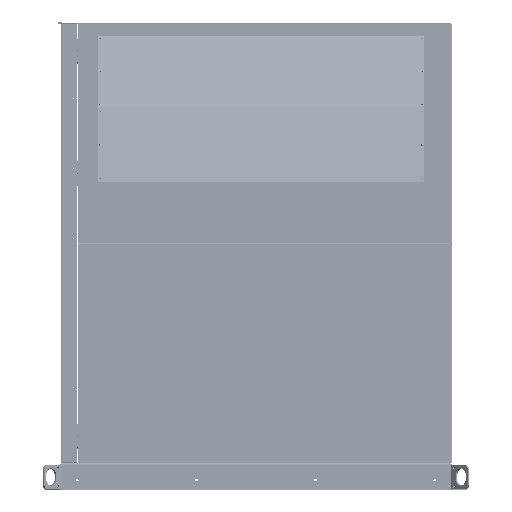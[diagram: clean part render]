
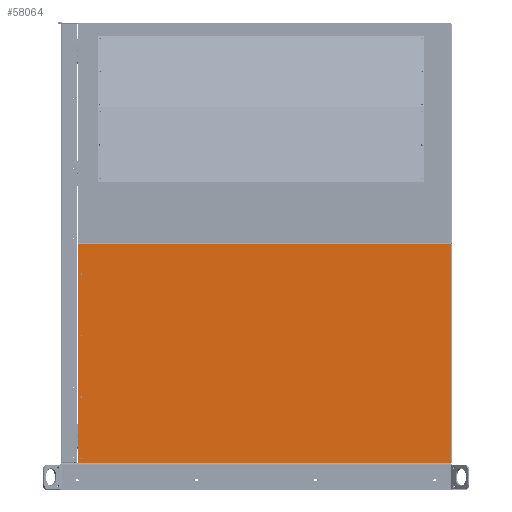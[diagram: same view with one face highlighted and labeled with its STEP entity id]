
A CAD part, top view. The second image highlights one B-rep face of the part: STEP entity #58064.
In plain terms, the highlighted planar face has unit normal (0, 0, 1) as drawn and (0, 1, 0) by its records, which use the part's own axes.
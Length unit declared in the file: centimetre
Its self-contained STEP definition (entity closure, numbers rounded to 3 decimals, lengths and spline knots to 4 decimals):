
#3298=VECTOR('',#69350,1.);
#3316=VECTOR('',#69382,1.);
#3330=VECTOR('',#69417,1.);
#3352=VECTOR('',#69469,1.);
#7532=LINE('',#85580,#3298);
#7550=LINE('',#85624,#3316);
#7564=LINE('',#85665,#3330);
#7586=LINE('',#85727,#3352);
#11630=PLANE('',#61832);
#13517=VERTEX_POINT('',#85394);
#13519=VERTEX_POINT('',#85399);
#13521=VERTEX_POINT('',#85404);
#13523=VERTEX_POINT('',#85409);
#13563=VERTEX_POINT('',#85509);
#13567=VERTEX_POINT('',#85517);
#13589=VERTEX_POINT('',#85585);
#13593=VERTEX_POINT('',#85593);
#13619=VERTEX_POINT('',#85666);
#13620=VERTEX_POINT('',#85667);
#13639=VERTEX_POINT('',#85728);
#13640=VERTEX_POINT('',#85729);
#18942=CIRCLE('',#61690,0.25);
#18944=CIRCLE('',#61693,0.25);
#18946=CIRCLE('',#61696,0.25);
#18948=CIRCLE('',#61699,0.25);
#22128=EDGE_CURVE('',#13517,#13517,#18942,.T.);
#22130=EDGE_CURVE('',#13519,#13519,#18944,.T.);
#22132=EDGE_CURVE('',#13521,#13521,#18946,.T.);
#22134=EDGE_CURVE('',#13523,#13523,#18948,.T.);
#22213=EDGE_CURVE('',#13567,#13563,#7532,.T.);
#22235=EDGE_CURVE('',#13593,#13589,#7550,.T.);
#22255=EDGE_CURVE('',#13619,#13620,#7564,.T.);
#22269=EDGE_CURVE('',#13563,#13619,#7564,.T.);
#22287=EDGE_CURVE('',#13639,#13640,#7586,.T.);
#22301=EDGE_CURVE('',#13589,#13639,#7586,.T.);
#22302=EDGE_CURVE('',#13640,#13567,#7586,.T.);
#22304=EDGE_CURVE('',#13620,#13593,#7564,.T.);
#31217=ORIENTED_EDGE('',*,*,#22128,.T.);
#31218=ORIENTED_EDGE('',*,*,#22130,.T.);
#31219=ORIENTED_EDGE('',*,*,#22132,.T.);
#31220=ORIENTED_EDGE('',*,*,#22134,.T.);
#31221=ORIENTED_EDGE('',*,*,#22301,.F.);
#31222=ORIENTED_EDGE('',*,*,#22235,.F.);
#31223=ORIENTED_EDGE('',*,*,#22304,.F.);
#31224=ORIENTED_EDGE('',*,*,#22255,.F.);
#31225=ORIENTED_EDGE('',*,*,#22269,.F.);
#31226=ORIENTED_EDGE('',*,*,#22213,.F.);
#31227=ORIENTED_EDGE('',*,*,#22302,.F.);
#31228=ORIENTED_EDGE('',*,*,#22287,.F.);
#46913=EDGE_LOOP('',(#31217));
#46914=EDGE_LOOP('',(#31218));
#46915=EDGE_LOOP('',(#31219));
#46916=EDGE_LOOP('',(#31220));
#46917=EDGE_LOOP('',(#31221,#31222,#31223,#31224,#31225,#31226,#31227,#31228));
#52633=FACE_BOUND('',#46913,.T.);
#52634=FACE_BOUND('',#46914,.T.);
#52635=FACE_BOUND('',#46915,.T.);
#52636=FACE_BOUND('',#46916,.T.);
#52637=FACE_BOUND('',#46917,.T.);
#58064=ADVANCED_FACE('',(#52633,#52634,#52635,#52636,#52637),#11630,.T.);
#61690=AXIS2_PLACEMENT_3D('',#85393,#69155,#69156);
#61693=AXIS2_PLACEMENT_3D('',#85398,#69161,#69162);
#61696=AXIS2_PLACEMENT_3D('',#85403,#69167,#69168);
#61699=AXIS2_PLACEMENT_3D('',#85408,#69173,#69174);
#61832=AXIS2_PLACEMENT_3D('',#85753,#69493,$);
#69155=DIRECTION('',(0.,-1.,0.));
#69156=DIRECTION('',(0.25,0.,0.));
#69161=DIRECTION('',(0.,-1.,0.));
#69162=DIRECTION('',(0.25,0.,0.));
#69167=DIRECTION('',(0.,-1.,0.));
#69168=DIRECTION('',(0.25,0.,0.));
#69173=DIRECTION('',(0.,-1.,0.));
#69174=DIRECTION('',(0.25,0.,0.));
#69350=DIRECTION('',(1.,0.,0.));
#69382=DIRECTION('',(-1.,0.,0.));
#69417=DIRECTION('',(0.,0.,1.));
#69469=DIRECTION('',(0.,0.,-1.));
#69493=DIRECTION('',(0.,1.,0.));
#85393=CARTESIAN_POINT('',(1.02,0.09,9.6629));
#85394=CARTESIAN_POINT('',(1.27,0.09,9.6629));
#85398=CARTESIAN_POINT('',(1.02,0.09,29.2486));
#85399=CARTESIAN_POINT('',(1.27,0.09,29.2486));
#85403=CARTESIAN_POINT('',(1.02,0.09,48.8343));
#85404=CARTESIAN_POINT('',(1.27,0.09,48.8343));
#85408=CARTESIAN_POINT('',(1.02,0.09,68.42));
#85409=CARTESIAN_POINT('',(1.27,0.09,68.42));
#85509=CARTESIAN_POINT('',(118.865,0.09,0.045));
#85517=CARTESIAN_POINT('',(0.045,0.09,0.045));
#85580=CARTESIAN_POINT('',(59.455,0.09,0.045));
#85585=CARTESIAN_POINT('',(0.045,0.09,69.775));
#85593=CARTESIAN_POINT('',(118.865,0.09,69.775));
#85624=CARTESIAN_POINT('',(59.455,0.09,69.775));
#85665=CARTESIAN_POINT('',(118.865,0.09,34.91));
#85666=CARTESIAN_POINT('',(118.865,0.09,0.045));
#85667=CARTESIAN_POINT('',(118.865,0.09,69.775));
#85727=CARTESIAN_POINT('',(0.045,0.09,34.91));
#85728=CARTESIAN_POINT('',(0.045,0.09,69.775));
#85729=CARTESIAN_POINT('',(0.045,0.09,0.045));
#85753=CARTESIAN_POINT('',(59.455,0.09,34.91));
